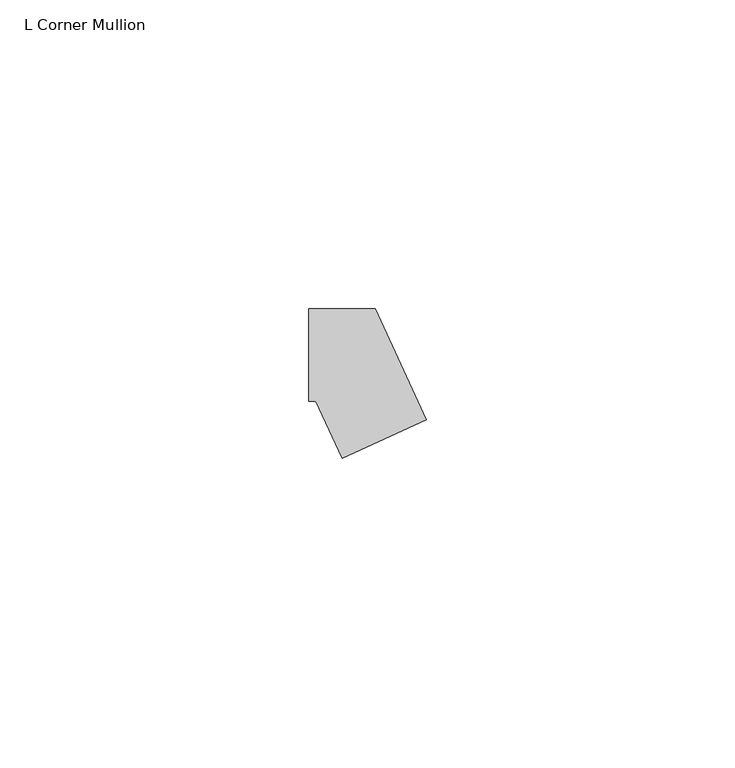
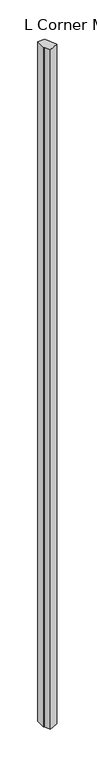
"""IFC4 building model written with IfcOpenShell, lengths in millimetres: member geometry, L Corner Mullion : ARQ_HERR_15X6mm."""

from ifc_helpers import new_model, si_unit, frame, origin, place, context, project, spatial, polyline, outline, extrude, source, transform, mapped, element, save


def l_corner_mullion_285056ba(model_context):
    return source(origin(), model_context, "Body", "SweptSolid", [
        extrude(outline(polyline([(-0.5775282, -16.7605627), (-4.8156946, -7.5), (-6.0, -7.5), (-6.0, 7.5), (4.8156946, 7.5), (13.0619332, -10.5183601), (-0.5775282, -16.7605627)])), frame((0.0, 0.0, -1101.3333335), z_axis=(0.0, 0.0, 1.0), x_axis=(1.0, 0.0, 0.0)), (0.0, 0.0, 1.0), 1101.3333335),
    ])


if __name__ == "__main__":
    model = new_model("IFC4")
    model_context = context("Model", 3, world=origin())
    ifc_project = project(units=[si_unit("LENGTHUNIT", "METRE", prefix="MILLI")], contexts=[model_context])
    site = spatial("IfcSite", under=ifc_project)
    building = spatial("IfcBuilding", under=site)
    placement = place(None, origin())
    l_corner_mullion_shape = l_corner_mullion_285056ba(model_context)
    element("IfcMember", 1, ObjectType="L Corner Mullion : ARQ_HERR_15X6mm", at=placement, inside=building, context=model_context, shape_type="MappedRepresentation", body=[
        mapped(l_corner_mullion_shape, transform((0.0, 0.0, 0.0), x_axis=(1.0, 0.0, 0.0), y_axis=(0.0, 1.0, 0.0), z_axis=(0.0, 0.0, 1.0))),
    ])
    save(model, "model.ifc")
